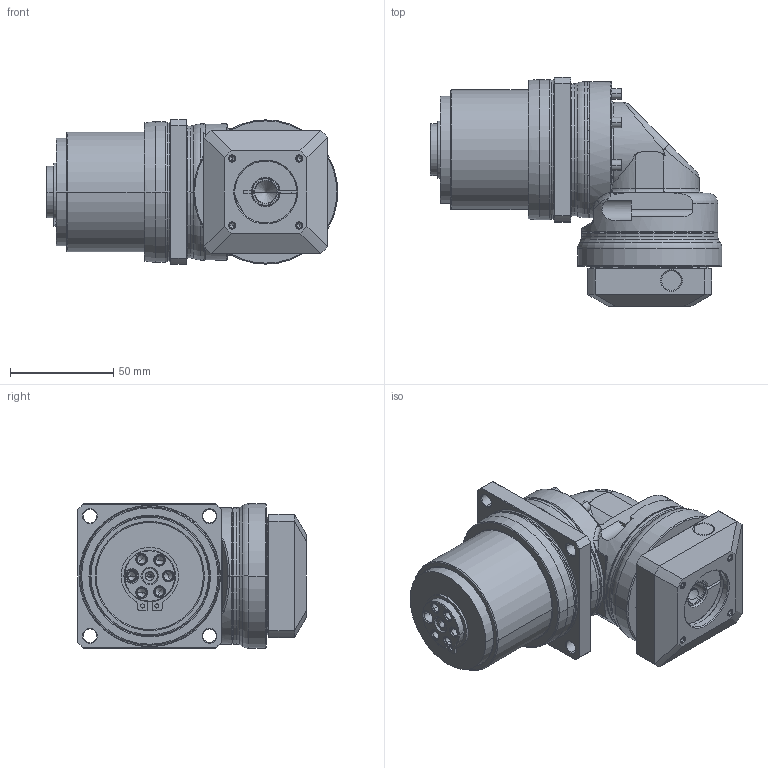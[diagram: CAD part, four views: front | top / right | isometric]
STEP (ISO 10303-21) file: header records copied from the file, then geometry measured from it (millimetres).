
FILE_DESCRIPTION((''),'2;1');
FILE_NAME('PLR070_1ST_11-P0411200101_ASM','2016-06-13T',('d00435'),(''),'PRO/ENGINEER BY PARAMETRIC TECHNOLOGY CORPORATION, 2008410','PRO/ENGINEER BY PARAMETRIC TECHNOLOGY CORPORATION, 2008410','');
FILE_SCHEMA(('CONFIG_CONTROL_DESIGN'));
Length unit declared in the file: millimetre
Products named in the file (10): P0272200001; P1353200001; P0366200001; 22802000015; P1017210001; P1350200101; P0411200101; P0503200005; P0713200101; PLR070_1ST_11-P0411200101_ASM
Assembly tree (9 placements, depth 2):
  PLR070_1ST_11-P0411200101_ASM
    P0272200001
    P1353200001
    P0366200001
    22802000015
    P1017210001
    P1350200101
    P0411200101
    P0503200005
    P0713200101
Bounding box: 141.5 x 111 x 70 mm (x, y, z)
Volume: 446035.3 mm3; surface area: 111407.6 mm2
Topology: 9 solids, 24 shells, 589 faces, 1363 edges, 818 vertices
Faces by surface type: cylinder 201, cone 160, plane 126, torus 72, bspline 30
Entity records: 19629 total; most frequent: CARTESIAN_POINT 6104, DIRECTION 2992, ORIENTED_EDGE 2594, EDGE_CURVE 1327, AXIS2_PLACEMENT_3D 1261, VERTEX_POINT 818, CIRCLE 675, EDGE_LOOP 673
